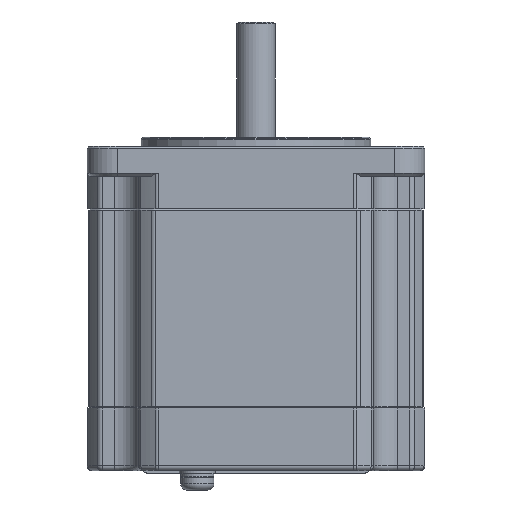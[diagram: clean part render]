
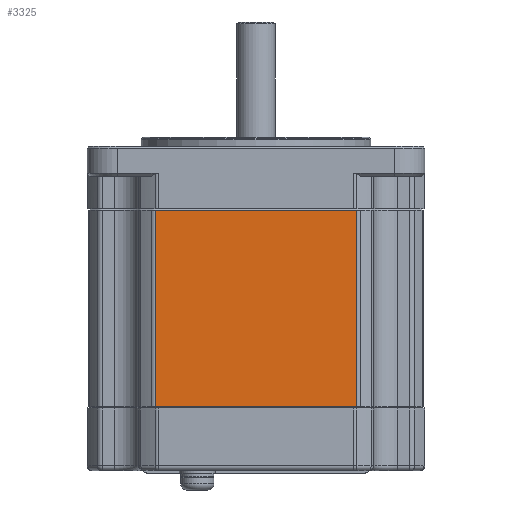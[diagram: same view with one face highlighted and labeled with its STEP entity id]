
A CAD part, front view. The second image highlights one B-rep face of the part: STEP entity #3325.
In plain terms, the highlighted planar face has unit normal (0, -1, 0).
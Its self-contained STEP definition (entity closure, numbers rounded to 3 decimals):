
#270 = EDGE_LOOP ( 'NONE', ( #909, #907, #908, #906 ) ) ;
#906 = ORIENTED_EDGE ( 'NONE', *, *, #3178, .T. ) ;
#907 = ORIENTED_EDGE ( 'NONE', *, *, #3180, .T. ) ;
#908 = ORIENTED_EDGE ( 'NONE', *, *, #3179, .F. ) ;
#909 = ORIENTED_EDGE ( 'NONE', *, *, #3182, .T. ) ;
#2828 = VERTEX_POINT ( 'NONE', #11638 ) ;
#2829 = VERTEX_POINT ( 'NONE', #11639 ) ;
#2830 = VERTEX_POINT ( 'NONE', #11640 ) ;
#2831 = VERTEX_POINT ( 'NONE', #11641 ) ;
#3178 = EDGE_CURVE ( 'NONE', #2828, #2830, #12128, .T. ) ;
#3179 = EDGE_CURVE ( 'NONE', #2828, #2829, #12131, .T. ) ;
#3180 = EDGE_CURVE ( 'NONE', #2831, #2829, #12134, .T. ) ;
#3182 = EDGE_CURVE ( 'NONE', #2830, #2831, #12140, .T. ) ;
#3325 = ADVANCED_FACE ( 'NONE', ( #6578 ), #8861, .T. ) ;
#3582 = VECTOR ( 'NONE', #12142, 1000. ) ;
#3586 = VECTOR ( 'NONE', #12136, 1000. ) ;
#3589 = VECTOR ( 'NONE', #12133, 1000. ) ;
#3594 = VECTOR ( 'NONE', #12130, 1000. ) ;
#6578 = FACE_OUTER_BOUND ( 'NONE', #270, .T. ) ;
#6583 = AXIS2_PLACEMENT_3D ( 'NONE', #8862, #8863, #8864 ) ;
#8861 = PLANE ( 'NONE',  #6583 ) ;
#8862 = CARTESIAN_POINT ( 'NONE',  ( -16.714, -27.7, -33. ) ) ;
#8863 = DIRECTION ( 'NONE',  ( 0., -1., 0. ) ) ;
#8864 = DIRECTION ( 'NONE',  ( 0., 0., -1. ) ) ;
#11638 = CARTESIAN_POINT ( 'NONE',  ( -16.714, -27.7, -32.8 ) ) ;
#11639 = CARTESIAN_POINT ( 'NONE',  ( -16.714, -27.7, -0.2 ) ) ;
#11640 = CARTESIAN_POINT ( 'NONE',  ( 16.714, -27.7, -32.8 ) ) ;
#11641 = CARTESIAN_POINT ( 'NONE',  ( 16.714, -27.7, -0.2 ) ) ;
#12128 = LINE ( 'NONE', #12129, #3594 ) ;
#12129 = CARTESIAN_POINT ( 'NONE',  ( 16.714, -27.7, -32.8 ) ) ;
#12130 = DIRECTION ( 'NONE',  ( 1., 0., 0. ) ) ;
#12131 = LINE ( 'NONE', #12132, #3589 ) ;
#12132 = CARTESIAN_POINT ( 'NONE',  ( -16.714, -27.7, -33. ) ) ;
#12133 = DIRECTION ( 'NONE',  ( 0., 0., 1. ) ) ;
#12134 = LINE ( 'NONE', #12135, #3586 ) ;
#12135 = CARTESIAN_POINT ( 'NONE',  ( -16.714, -27.7, -0.2 ) ) ;
#12136 = DIRECTION ( 'NONE',  ( -1., 0., 0. ) ) ;
#12140 = LINE ( 'NONE', #12141, #3582 ) ;
#12141 = CARTESIAN_POINT ( 'NONE',  ( 16.714, -27.7, -33. ) ) ;
#12142 = DIRECTION ( 'NONE',  ( 0., 0., 1. ) ) ;
